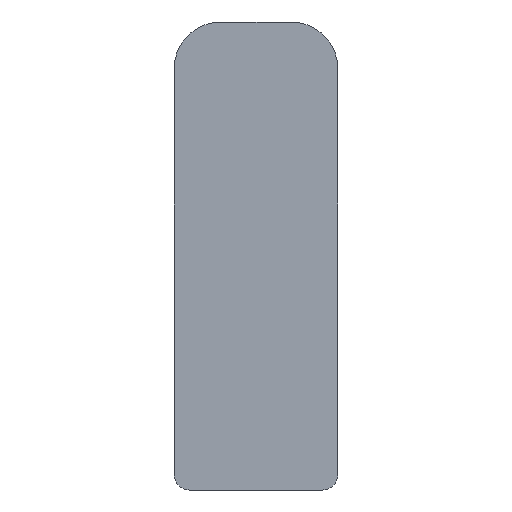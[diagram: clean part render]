
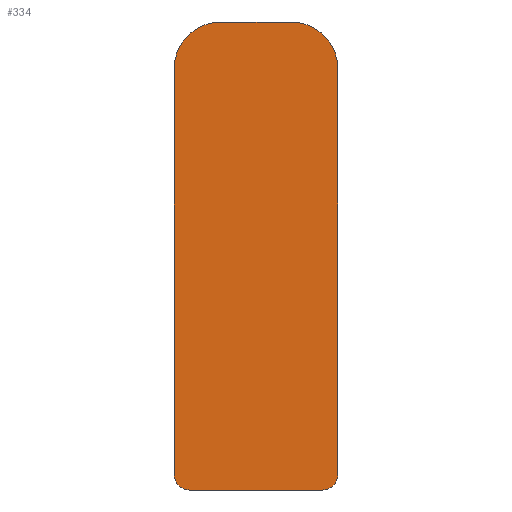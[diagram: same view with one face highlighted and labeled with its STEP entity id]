
A CAD part, left-side view. The second image highlights one B-rep face of the part: STEP entity #334.
In plain terms, the highlighted planar face has unit normal (-1, 0, 0).
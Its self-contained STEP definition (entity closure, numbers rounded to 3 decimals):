
#16 = VECTOR ( 'NONE', #272, 1000. ) ;
#17 = LINE ( 'NONE', #273, #16 ) ;
#19 = CIRCLE ( 'NONE', #98, 1. ) ;
#24 = LINE ( 'NONE', #285, #25 ) ;
#25 = VECTOR ( 'NONE', #284, 1000. ) ;
#40 = CIRCLE ( 'NONE', #100, 1. ) ;
#45 = ORIENTED_EDGE ( 'NONE', *, *, #115, .T. ) ;
#46 = VECTOR ( 'NONE', #304, 1000. ) ;
#47 = LINE ( 'NONE', #305, #46 ) ;
#49 = CIRCLE ( 'NONE', #102, 3. ) ;
#54 = ORIENTED_EDGE ( 'NONE', *, *, #108, .T. ) ;
#55 = VECTOR ( 'NONE', #319, 1000. ) ;
#56 = LINE ( 'NONE', #320, #55 ) ;
#60 = ORIENTED_EDGE ( 'NONE', *, *, #112, .T. ) ;
#63 = ORIENTED_EDGE ( 'NONE', *, *, #117, .T. ) ;
#64 = ORIENTED_EDGE ( 'NONE', *, *, #120, .T. ) ;
#65 = CIRCLE ( 'NONE', #104, 3. ) ;
#74 = ORIENTED_EDGE ( 'NONE', *, *, #124, .T. ) ;
#78 = ORIENTED_EDGE ( 'NONE', *, *, #127, .T. ) ;
#89 = ORIENTED_EDGE ( 'NONE', *, *, #129, .T. ) ;
#93 = AXIS2_PLACEMENT_3D ( 'NONE', #230, #229, #228 ) ;
#98 = AXIS2_PLACEMENT_3D ( 'NONE', #278, #277, #276 ) ;
#100 = AXIS2_PLACEMENT_3D ( 'NONE', #297, #296, #295 ) ;
#102 = AXIS2_PLACEMENT_3D ( 'NONE', #312, #310, #309 ) ;
#104 = AXIS2_PLACEMENT_3D ( 'NONE', #329, #328, #327 ) ;
#108 = EDGE_CURVE ( 'NONE', #238, #233, #65, .T. ) ;
#112 = EDGE_CURVE ( 'NONE', #233, #246, #56, .T. ) ;
#115 = EDGE_CURVE ( 'NONE', #246, #306, #49, .T. ) ;
#117 = EDGE_CURVE ( 'NONE', #306, #234, #47, .T. ) ;
#120 = EDGE_CURVE ( 'NONE', #234, #251, #40, .T. ) ;
#124 = EDGE_CURVE ( 'NONE', #251, #311, #24, .T. ) ;
#127 = EDGE_CURVE ( 'NONE', #311, #294, #19, .T. ) ;
#129 = EDGE_CURVE ( 'NONE', #294, #238, #17, .T. ) ;
#148 = FACE_OUTER_BOUND ( 'NONE', #182, .T. ) ;
#182 = EDGE_LOOP ( 'NONE', ( #54, #60, #45, #63, #64, #74, #78, #89 ) ) ;
#228 = DIRECTION ( 'NONE',  ( 0., 0., 1. ) ) ;
#229 = DIRECTION ( 'NONE',  ( -1., 0., 0. ) ) ;
#230 = CARTESIAN_POINT ( 'NONE',  ( -156.25, -2.25, 27. ) ) ;
#231 = PLANE ( 'NONE',  #93 ) ;
#233 = VERTEX_POINT ( 'NONE', #263 ) ;
#234 = VERTEX_POINT ( 'NONE', #261 ) ;
#238 = VERTEX_POINT ( 'NONE', #260 ) ;
#245 = CARTESIAN_POINT ( 'NONE',  ( -156.25, -4.25, 0. ) ) ;
#246 = VERTEX_POINT ( 'NONE', #258 ) ;
#247 = CARTESIAN_POINT ( 'NONE',  ( -156.25, 5.25, 27. ) ) ;
#249 = CARTESIAN_POINT ( 'NONE',  ( -156.25, -5.25, 1. ) ) ;
#251 = VERTEX_POINT ( 'NONE', #257 ) ;
#257 = CARTESIAN_POINT ( 'NONE',  ( -156.25, 4.25, 0. ) ) ;
#258 = CARTESIAN_POINT ( 'NONE',  ( -156.25, 2.25, 30. ) ) ;
#260 = CARTESIAN_POINT ( 'NONE',  ( -156.25, -5.25, 27. ) ) ;
#261 = CARTESIAN_POINT ( 'NONE',  ( -156.25, 5.25, 1. ) ) ;
#263 = CARTESIAN_POINT ( 'NONE',  ( -156.25, -2.25, 30. ) ) ;
#272 = DIRECTION ( 'NONE',  ( 0., 0., 1. ) ) ;
#273 = CARTESIAN_POINT ( 'NONE',  ( -156.25, -5.25, 1. ) ) ;
#276 = DIRECTION ( 'NONE',  ( 0., 0., -1. ) ) ;
#277 = DIRECTION ( 'NONE',  ( -1., 0., 0. ) ) ;
#278 = CARTESIAN_POINT ( 'NONE',  ( -156.25, -4.25, 1. ) ) ;
#284 = DIRECTION ( 'NONE',  ( 0., -1., 0. ) ) ;
#285 = CARTESIAN_POINT ( 'NONE',  ( -156.25, -4.25, 0. ) ) ;
#294 = VERTEX_POINT ( 'NONE', #249 ) ;
#295 = DIRECTION ( 'NONE',  ( 0., 0., -1. ) ) ;
#296 = DIRECTION ( 'NONE',  ( -1., 0., 0. ) ) ;
#297 = CARTESIAN_POINT ( 'NONE',  ( -156.25, 4.25, 1. ) ) ;
#304 = DIRECTION ( 'NONE',  ( 0., 0., -1. ) ) ;
#305 = CARTESIAN_POINT ( 'NONE',  ( -156.25, 5.25, 1. ) ) ;
#306 = VERTEX_POINT ( 'NONE', #247 ) ;
#309 = DIRECTION ( 'NONE',  ( 0., 0., -1. ) ) ;
#310 = DIRECTION ( 'NONE',  ( -1., 0., 0. ) ) ;
#311 = VERTEX_POINT ( 'NONE', #245 ) ;
#312 = CARTESIAN_POINT ( 'NONE',  ( -156.25, 2.25, 27. ) ) ;
#319 = DIRECTION ( 'NONE',  ( 0., 1., 0. ) ) ;
#320 = CARTESIAN_POINT ( 'NONE',  ( -156.25, -2.25, 30. ) ) ;
#327 = DIRECTION ( 'NONE',  ( 0., 0., 1. ) ) ;
#328 = DIRECTION ( 'NONE',  ( -1., 0., 0. ) ) ;
#329 = CARTESIAN_POINT ( 'NONE',  ( -156.25, -2.25, 27. ) ) ;
#334 = ADVANCED_FACE ( 'NONE', ( #148 ), #231, .T. ) ;
